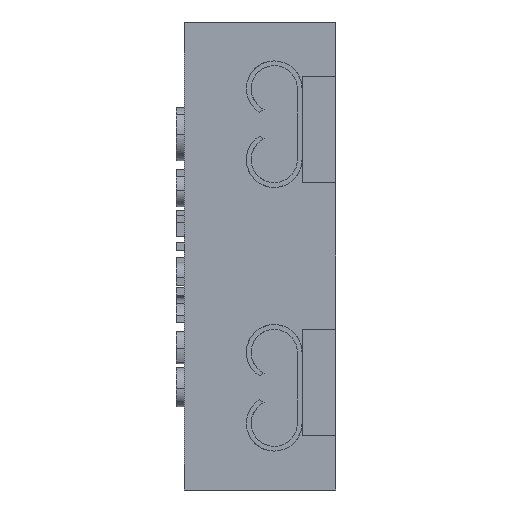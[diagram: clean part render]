
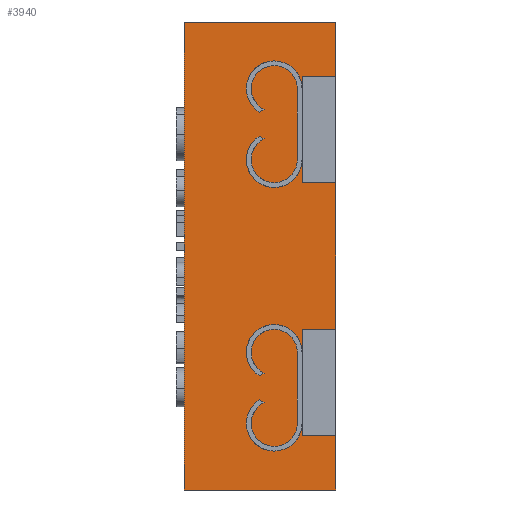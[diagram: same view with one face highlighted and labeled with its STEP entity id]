
A CAD part, front view. The second image highlights one B-rep face of the part: STEP entity #3940.
In plain terms, the highlighted planar face has unit normal (0, -1, 0).
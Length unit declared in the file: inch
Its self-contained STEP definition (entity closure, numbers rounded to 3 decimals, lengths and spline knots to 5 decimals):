
#337=FACE_OUTER_BOUND('',#559,.T.);
#559=EDGE_LOOP('',(#2613,#2614,#2615,#2616,#2617,#2618,#2619,#2620,#2621,
#2622,#2623,#2624));
#789=LINE('',#5317,#1195);
#793=LINE('',#5325,#1199);
#796=LINE('',#5331,#1202);
#800=LINE('',#5339,#1206);
#801=LINE('',#5341,#1207);
#802=LINE('',#5343,#1208);
#803=LINE('',#5345,#1209);
#804=LINE('',#5347,#1210);
#805=LINE('',#5349,#1211);
#806=LINE('',#5351,#1212);
#807=LINE('',#5353,#1213);
#808=LINE('',#5354,#1214);
#1195=VECTOR('',#4468,0.3937);
#1199=VECTOR('',#4474,0.3937);
#1202=VECTOR('',#4479,0.3937);
#1206=VECTOR('',#4487,0.3937);
#1207=VECTOR('',#4488,0.3937);
#1208=VECTOR('',#4489,0.3937);
#1209=VECTOR('',#4490,0.3937);
#1210=VECTOR('',#4491,0.3937);
#1211=VECTOR('',#4492,0.3937);
#1212=VECTOR('',#4493,0.3937);
#1213=VECTOR('',#4494,0.3937);
#1214=VECTOR('',#4495,0.3937);
#1601=VERTEX_POINT('',#5315);
#1602=VERTEX_POINT('',#5316);
#1605=VERTEX_POINT('',#5324);
#1607=VERTEX_POINT('',#5330);
#1609=VERTEX_POINT('',#5338);
#1610=VERTEX_POINT('',#5340);
#1611=VERTEX_POINT('',#5342);
#1612=VERTEX_POINT('',#5344);
#1613=VERTEX_POINT('',#5346);
#1614=VERTEX_POINT('',#5348);
#1615=VERTEX_POINT('',#5350);
#1616=VERTEX_POINT('',#5352);
#1997=EDGE_CURVE('',#1601,#1602,#789,.T.);
#2001=EDGE_CURVE('',#1605,#1601,#793,.T.);
#2004=EDGE_CURVE('',#1607,#1605,#796,.T.);
#2008=EDGE_CURVE('',#1609,#1602,#800,.T.);
#2009=EDGE_CURVE('',#1609,#1610,#801,.T.);
#2010=EDGE_CURVE('',#1610,#1611,#802,.T.);
#2011=EDGE_CURVE('',#1611,#1612,#803,.T.);
#2012=EDGE_CURVE('',#1613,#1612,#804,.T.);
#2013=EDGE_CURVE('',#1614,#1613,#805,.T.);
#2014=EDGE_CURVE('',#1615,#1614,#806,.T.);
#2015=EDGE_CURVE('',#1616,#1615,#807,.T.);
#2016=EDGE_CURVE('',#1607,#1616,#808,.T.);
#2613=ORIENTED_EDGE('',*,*,#2004,.T.);
#2614=ORIENTED_EDGE('',*,*,#2001,.T.);
#2615=ORIENTED_EDGE('',*,*,#1997,.T.);
#2616=ORIENTED_EDGE('',*,*,#2008,.F.);
#2617=ORIENTED_EDGE('',*,*,#2009,.T.);
#2618=ORIENTED_EDGE('',*,*,#2010,.T.);
#2619=ORIENTED_EDGE('',*,*,#2011,.T.);
#2620=ORIENTED_EDGE('',*,*,#2012,.F.);
#2621=ORIENTED_EDGE('',*,*,#2013,.F.);
#2622=ORIENTED_EDGE('',*,*,#2014,.F.);
#2623=ORIENTED_EDGE('',*,*,#2015,.F.);
#2624=ORIENTED_EDGE('',*,*,#2016,.F.);
#3801=PLANE('',#4246);
#3940=ADVANCED_FACE('',(#337),#3801,.T.);
#4246=AXIS2_PLACEMENT_3D('',#5337,#4485,#4486);
#4468=DIRECTION('',(1.,0.,0.));
#4474=DIRECTION('',(0.,0.,1.));
#4479=DIRECTION('',(-1.,0.,0.));
#4485=DIRECTION('center_axis',(0.,-1.,0.));
#4486=DIRECTION('ref_axis',(0.,0.,-1.));
#4487=DIRECTION('',(0.,0.,-1.));
#4488=DIRECTION('',(-1.,0.,0.));
#4489=DIRECTION('',(0.,0.,1.));
#4490=DIRECTION('',(1.,0.,0.));
#4491=DIRECTION('',(0.,0.,-1.));
#4492=DIRECTION('',(1.,0.,0.));
#4493=DIRECTION('',(0.,0.,1.));
#4494=DIRECTION('',(-1.,0.,0.));
#4495=DIRECTION('',(0.,0.,-1.));
#5315=CARTESIAN_POINT('',(0.05236,0.,-0.09094));
#5316=CARTESIAN_POINT('',(0.09449,0.,-0.09094));
#5317=CARTESIAN_POINT('',(0.02618,0.,-0.09094));
#5324=CARTESIAN_POINT('',(0.05236,0.,-0.22362));
#5325=CARTESIAN_POINT('',(0.05236,0.,-0.11181));
#5330=CARTESIAN_POINT('',(0.09449,0.,-0.22362));
#5331=CARTESIAN_POINT('',(0.04724,0.,-0.22362));
#5337=CARTESIAN_POINT('Origin',(0.,0.,0.));
#5338=CARTESIAN_POINT('',(0.09449,0.,0.09094));
#5339=CARTESIAN_POINT('',(0.09449,0.,0.29134));
#5340=CARTESIAN_POINT('',(0.05236,0.,0.09094));
#5341=CARTESIAN_POINT('',(0.02618,0.,0.09094));
#5342=CARTESIAN_POINT('',(0.05236,0.,0.22362));
#5343=CARTESIAN_POINT('',(0.05236,0.,0.11181));
#5344=CARTESIAN_POINT('',(0.09449,0.,0.22362));
#5345=CARTESIAN_POINT('',(0.04724,0.,0.22362));
#5346=CARTESIAN_POINT('',(0.09449,0.,0.29134));
#5347=CARTESIAN_POINT('',(0.09449,0.,0.29134));
#5348=CARTESIAN_POINT('',(-0.09449,0.,0.29134));
#5349=CARTESIAN_POINT('',(-0.09449,0.,0.29134));
#5350=CARTESIAN_POINT('',(-0.09449,0.,-0.29134));
#5351=CARTESIAN_POINT('',(-0.09449,0.,-0.29134));
#5352=CARTESIAN_POINT('',(0.09449,0.,-0.29134));
#5353=CARTESIAN_POINT('',(0.09449,0.,-0.29134));
#5354=CARTESIAN_POINT('',(0.09449,0.,0.29134));
